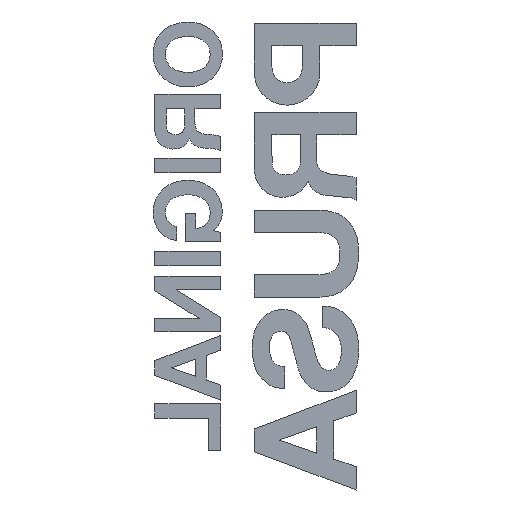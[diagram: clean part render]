
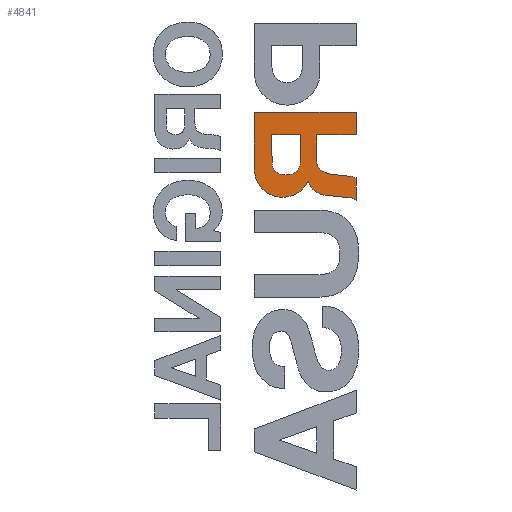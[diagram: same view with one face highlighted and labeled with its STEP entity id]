
A CAD part, front view. The second image highlights one B-rep face of the part: STEP entity #4841.
In plain terms, the highlighted planar face has unit normal (0, -1, 0).
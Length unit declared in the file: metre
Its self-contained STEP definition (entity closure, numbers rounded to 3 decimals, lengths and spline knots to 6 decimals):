
#136=PLANE('',#5497);
#377=CIRCLE('',#5473,0.001565);
#379=CIRCLE('',#5477,0.0018);
#381=CIRCLE('',#5480,0.000849);
#383=CIRCLE('',#5488,0.001764);
#385=CIRCLE('',#5491,0.001289);
#387=CIRCLE('',#5495,0.000934);
#388=CIRCLE('',#5498,0.000735);
#389=CIRCLE('',#5499,0.001587);
#390=CIRCLE('',#5500,0.000735);
#1590=ORIENTED_EDGE('',*,*,#2466,.T.);
#1591=ORIENTED_EDGE('',*,*,#2428,.F.);
#1592=ORIENTED_EDGE('',*,*,#2431,.T.);
#1593=ORIENTED_EDGE('',*,*,#2434,.T.);
#1594=ORIENTED_EDGE('',*,*,#2437,.T.);
#1595=ORIENTED_EDGE('',*,*,#2440,.T.);
#1596=ORIENTED_EDGE('',*,*,#2443,.T.);
#1597=ORIENTED_EDGE('',*,*,#2446,.T.);
#1598=ORIENTED_EDGE('',*,*,#2449,.T.);
#1599=ORIENTED_EDGE('',*,*,#2452,.T.);
#1600=ORIENTED_EDGE('',*,*,#2455,.F.);
#1601=ORIENTED_EDGE('',*,*,#2458,.F.);
#1602=ORIENTED_EDGE('',*,*,#2461,.F.);
#1603=ORIENTED_EDGE('',*,*,#2464,.T.);
#1604=ORIENTED_EDGE('',*,*,#2467,.F.);
#1605=ORIENTED_EDGE('',*,*,#2468,.T.);
#1606=ORIENTED_EDGE('',*,*,#2469,.T.);
#1607=ORIENTED_EDGE('',*,*,#2470,.T.);
#1608=ORIENTED_EDGE('',*,*,#2471,.F.);
#1609=ORIENTED_EDGE('',*,*,#2472,.F.);
#2428=EDGE_CURVE('',#2964,#2962,#377,.T.);
#2431=EDGE_CURVE('',#2964,#2966,#3402,.T.);
#2434=EDGE_CURVE('',#2966,#2968,#379,.T.);
#2437=EDGE_CURVE('',#2968,#2970,#381,.T.);
#2440=EDGE_CURVE('',#2970,#2972,#3407,.T.);
#2443=EDGE_CURVE('',#2972,#2974,#3410,.T.);
#2446=EDGE_CURVE('',#2974,#2976,#3413,.T.);
#2449=EDGE_CURVE('',#2976,#2978,#3416,.T.);
#2452=EDGE_CURVE('',#2978,#2980,#3419,.T.);
#2455=EDGE_CURVE('',#2982,#2980,#383,.T.);
#2458=EDGE_CURVE('',#2984,#2982,#385,.T.);
#2461=EDGE_CURVE('',#2986,#2984,#3424,.T.);
#2464=EDGE_CURVE('',#2986,#2988,#387,.T.);
#2466=EDGE_CURVE('',#2988,#2962,#3427,.T.);
#2467=EDGE_CURVE('',#2989,#2990,#3428,.T.);
#2468=EDGE_CURVE('',#2989,#2991,#388,.T.);
#2469=EDGE_CURVE('',#2991,#2992,#389,.T.);
#2470=EDGE_CURVE('',#2992,#2993,#390,.T.);
#2471=EDGE_CURVE('',#2994,#2993,#3429,.T.);
#2472=EDGE_CURVE('',#2990,#2994,#3430,.T.);
#2962=VERTEX_POINT('',#8296);
#2964=VERTEX_POINT('',#8300);
#2966=VERTEX_POINT('',#8306);
#2968=VERTEX_POINT('',#8312);
#2970=VERTEX_POINT('',#8318);
#2972=VERTEX_POINT('',#8324);
#2974=VERTEX_POINT('',#8330);
#2976=VERTEX_POINT('',#8336);
#2978=VERTEX_POINT('',#8342);
#2980=VERTEX_POINT('',#8348);
#2982=VERTEX_POINT('',#8354);
#2984=VERTEX_POINT('',#8360);
#2986=VERTEX_POINT('',#8366);
#2988=VERTEX_POINT('',#8372);
#2989=VERTEX_POINT('',#8379);
#2990=VERTEX_POINT('',#8380);
#2991=VERTEX_POINT('',#8382);
#2992=VERTEX_POINT('',#8384);
#2993=VERTEX_POINT('',#8386);
#2994=VERTEX_POINT('',#8388);
#3402=LINE('',#8307,#3825);
#3407=LINE('',#8325,#3830);
#3410=LINE('',#8331,#3833);
#3413=LINE('',#8337,#3836);
#3416=LINE('',#8343,#3839);
#3419=LINE('',#8349,#3842);
#3424=LINE('',#8367,#3847);
#3427=LINE('',#8376,#3850);
#3428=LINE('',#8378,#3851);
#3429=LINE('',#8387,#3852);
#3430=LINE('',#8389,#3853);
#3825=VECTOR('',#6813,1.);
#3830=VECTOR('',#6832,1.);
#3833=VECTOR('',#6837,1.);
#3836=VECTOR('',#6842,1.);
#3839=VECTOR('',#6847,1.);
#3842=VECTOR('',#6852,1.);
#3847=VECTOR('',#6871,1.);
#3850=VECTOR('',#6882,1.);
#3851=VECTOR('',#6885,1.);
#3852=VECTOR('',#6892,1.);
#3853=VECTOR('',#6893,1.);
#4148=EDGE_LOOP('',(#1590,#1591,#1592,#1593,#1594,#1595,#1596,#1597,#1598,
#1599,#1600,#1601,#1602,#1603));
#4149=EDGE_LOOP('',(#1604,#1605,#1606,#1607,#1608,#1609));
#4425=FACE_BOUND('',#4148,.T.);
#4426=FACE_BOUND('',#4149,.T.);
#4841=ADVANCED_FACE('',(#4425,#4426),#136,.F.);
#5473=AXIS2_PLACEMENT_3D('',#8301,#6807,#6808);
#5477=AXIS2_PLACEMENT_3D('',#8313,#6819,#6820);
#5480=AXIS2_PLACEMENT_3D('',#8319,#6826,#6827);
#5488=AXIS2_PLACEMENT_3D('',#8355,#6858,#6859);
#5491=AXIS2_PLACEMENT_3D('',#8361,#6865,#6866);
#5495=AXIS2_PLACEMENT_3D('',#8373,#6877,#6878);
#5497=AXIS2_PLACEMENT_3D('',#8377,#6883,#6884);
#5498=AXIS2_PLACEMENT_3D('',#8381,#6886,#6887);
#5499=AXIS2_PLACEMENT_3D('',#8383,#6888,#6889);
#5500=AXIS2_PLACEMENT_3D('',#8385,#6890,#6891);
#6807=DIRECTION('',(0.,1.,0.));
#6808=DIRECTION('',(0.,0.,1.));
#6813=DIRECTION('',(-0.994,0.,0.108));
#6819=DIRECTION('',(0.,1.,0.));
#6820=DIRECTION('',(0.,0.,1.));
#6826=DIRECTION('',(0.,1.,0.));
#6827=DIRECTION('',(0.,0.,1.));
#6832=DIRECTION('',(0.,0.,1.));
#6837=DIRECTION('',(1.,0.,0.));
#6842=DIRECTION('',(0.,0.,1.));
#6847=DIRECTION('',(-1.,0.,0.));
#6852=DIRECTION('',(0.,0.,-1.));
#6858=DIRECTION('',(0.,1.,0.));
#6859=DIRECTION('',(0.,0.,1.));
#6865=DIRECTION('',(0.,1.,0.));
#6866=DIRECTION('',(0.,0.,1.));
#6871=DIRECTION('',(-0.994,0.,0.105));
#6877=DIRECTION('',(0.,1.,0.));
#6878=DIRECTION('',(0.,0.,1.));
#6882=DIRECTION('',(0.,0.,1.));
#6883=DIRECTION('',(0.,1.,0.));
#6884=DIRECTION('',(-1.,0.,0.));
#6885=DIRECTION('',(0.008,0.,1.));
#6886=DIRECTION('',(0.,1.,0.));
#6887=DIRECTION('',(0.,0.,1.));
#6888=DIRECTION('',(0.,1.,0.));
#6889=DIRECTION('',(0.,0.,1.));
#6890=DIRECTION('',(0.,1.,0.));
#6891=DIRECTION('',(0.,0.,1.));
#6892=DIRECTION('',(0.007,0.,-1.));
#6893=DIRECTION('',(-1.,0.,0.));
#8296=CARTESIAN_POINT('',(0.078099,-0.0005,0.118442));
#8300=CARTESIAN_POINT('',(0.077764,-0.0005,0.118535));
#8301=CARTESIAN_POINT('',(0.077512,-0.0005,0.11699));
#8306=CARTESIAN_POINT('',(0.076572,-0.0005,0.118665));
#8307=CARTESIAN_POINT('',(0.077168,-0.0005,0.1186));
#8312=CARTESIAN_POINT('',(0.076139,-0.0005,0.118777));
#8313=CARTESIAN_POINT('',(0.076801,-0.0005,0.12045));
#8318=CARTESIAN_POINT('',(0.075607,-0.0005,0.119728));
#8319=CARTESIAN_POINT('',(0.076441,-0.0005,0.11957));
#8324=CARTESIAN_POINT('',(0.075607,-0.0005,0.12113));
#8325=CARTESIAN_POINT('',(0.075607,-0.0005,0.120429));
#8330=CARTESIAN_POINT('',(0.078099,-0.0005,0.12113));
#8331=CARTESIAN_POINT('',(0.076853,-0.0005,0.12113));
#8336=CARTESIAN_POINT('',(0.078099,-0.0005,0.122532));
#8337=CARTESIAN_POINT('',(0.078099,-0.0005,0.121831));
#8342=CARTESIAN_POINT('',(0.071723,-0.0005,0.122532));
#8343=CARTESIAN_POINT('',(0.074911,-0.0005,0.122532));
#8348=CARTESIAN_POINT('',(0.071723,-0.0005,0.119094));
#8349=CARTESIAN_POINT('',(0.071723,-0.0005,0.120813));
#8354=CARTESIAN_POINT('',(0.075081,-0.0005,0.118236));
#8355=CARTESIAN_POINT('',(0.073483,-0.0005,0.118985));
#8360=CARTESIAN_POINT('',(0.07627,-0.0005,0.117345));
#8361=CARTESIAN_POINT('',(0.076307,-0.0005,0.118633));
#8366=CARTESIAN_POINT('',(0.077769,-0.0005,0.117187));
#8367=CARTESIAN_POINT('',(0.077019,-0.0005,0.117266));
#8372=CARTESIAN_POINT('',(0.078099,-0.0005,0.11704));
#8373=CARTESIAN_POINT('',(0.07756,-0.0005,0.116276));
#8376=CARTESIAN_POINT('',(0.078099,-0.0005,0.117741));
#8377=CARTESIAN_POINT('',(0.071821,-0.0005,0.113552));
#8378=CARTESIAN_POINT('',(0.074601,-0.0005,0.12025));
#8379=CARTESIAN_POINT('',(0.074594,-0.0005,0.119371));
#8380=CARTESIAN_POINT('',(0.074607,-0.0005,0.12113));
#8381=CARTESIAN_POINT('',(0.073859,-0.0005,0.119377));
#8382=CARTESIAN_POINT('',(0.073921,-0.0005,0.118644));
#8383=CARTESIAN_POINT('',(0.0737,-0.0005,0.120216));
#8384=CARTESIAN_POINT('',(0.07348,-0.0005,0.118644));
#8385=CARTESIAN_POINT('',(0.073561,-0.0005,0.119375));
#8386=CARTESIAN_POINT('',(0.072825,-0.0005,0.119371));
#8387=CARTESIAN_POINT('',(0.072819,-0.0005,0.12025));
#8388=CARTESIAN_POINT('',(0.072812,-0.0005,0.12113));
#8389=CARTESIAN_POINT('',(0.07371,-0.0005,0.12113));
